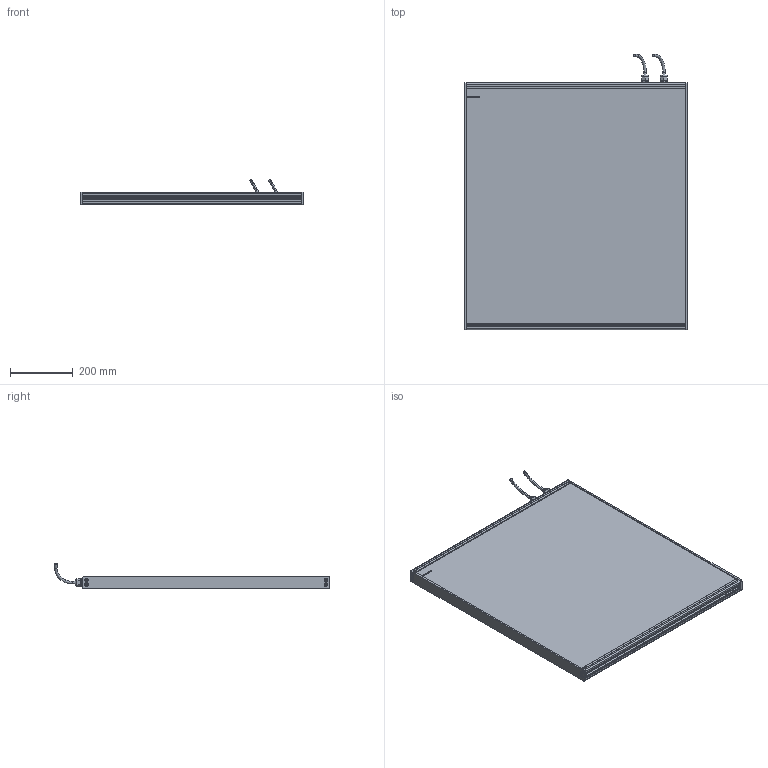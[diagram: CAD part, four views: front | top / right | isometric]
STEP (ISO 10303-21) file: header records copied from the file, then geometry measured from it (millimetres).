
FILE_DESCRIPTION (( 'STEP AP214' ), '1' );
FILE_NAME ('EFFI-BL-700T-750-2M12P.STEP', '2021-07-02T08:12:00', ( '' ), ( '' ), 'SwSTEP 2.0', 'SolidWorks 2021', '' );
FILE_SCHEMA (( 'AUTOMOTIVE_DESIGN' ));
Length unit declared in the file: millimetre
Products named in the file (7): EFFI-BL-700T-750-2M12P; profile modif_lg 99.5 mm; M12 power; bord fin modif_lg 436.5 mm; 003776; Pièce2^EFFI-BL-XXXT-YYY + 2 M12P
Assembly tree (15 placements, depth 2):
  EFFI-BL-700T-750-2M12P
    profile modif_lg 99.5 mm
    bord fin modif_lg 436.5 mm  x2
    Pièce2^EFFI-BL-XXXT-YYY + 2 M12P
    profile modif_lg 99.5 mm
    M12 power  x2
    003776  x8
Bounding box: 710 x 876.45 x 81.88 mm (x, y, z)
Volume: 19272889.3 mm3; surface area: 1509399.6 mm2
Topology: 13 solids, 19 shells, 627 faces, 1592 edges, 1022 vertices
Faces by surface type: plane 360, bspline 125, cylinder 114, cone 20, torus 8
Entity records: 16012 total; most frequent: CARTESIAN_POINT 5284, ORIENTED_EDGE 2148, DIRECTION 1816, EDGE_CURVE 1076, LINE 782, VECTOR 782, VERTEX_POINT 711, AXIS2_PLACEMENT_3D 517
